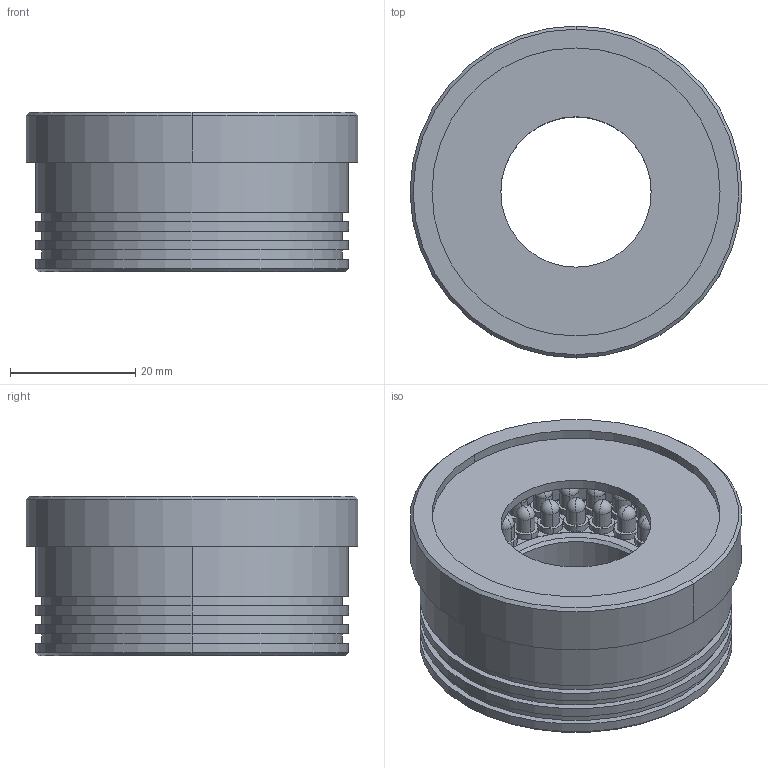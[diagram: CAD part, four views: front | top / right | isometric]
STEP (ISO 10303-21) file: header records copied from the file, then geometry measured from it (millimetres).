
FILE_DESCRIPTION((''),'2;1');
FILE_NAME('DRL5000_ASM','2020-03-27T',('ASUS'),(''),'PRO/ENGINEER BY PARAMETRIC TECHNOLOGY CORPORATION, 2008380','PRO/ENGINEER BY PARAMETRIC TECHNOLOGY CORPORATION, 2008380','');
FILE_SCHEMA(('CONFIG_CONTROL_DESIGN'));
Length unit declared in the file: millimetre
Products named in the file (3): DRL5000; LED; DRL5000_ASM
Assembly tree (55 placements, depth 2):
  DRL5000_ASM
    DRL5000
    LED  x54
Bounding box: 53 x 53 x 25.5 mm (x, y, z)
Volume: 26516.2 mm3; surface area: 19029.3 mm2
Topology: 55 solids, 59 shells, 519 faces, 1056 edges, 606 vertices
Faces by surface type: cylinder 264, plane 127, sphere 108, cone 20
Entity records: 3103 total; most frequent: DIRECTION 634, CARTESIAN_POINT 482, ORIENTED_EDGE 380, AXIS2_PLACEMENT_3D 281, EDGE_CURVE 198, VERTEX_POINT 129, CIRCLE 126, EDGE_LOOP 119
